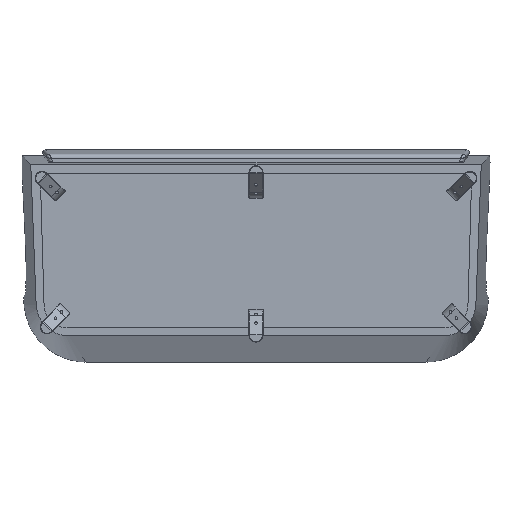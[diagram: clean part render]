
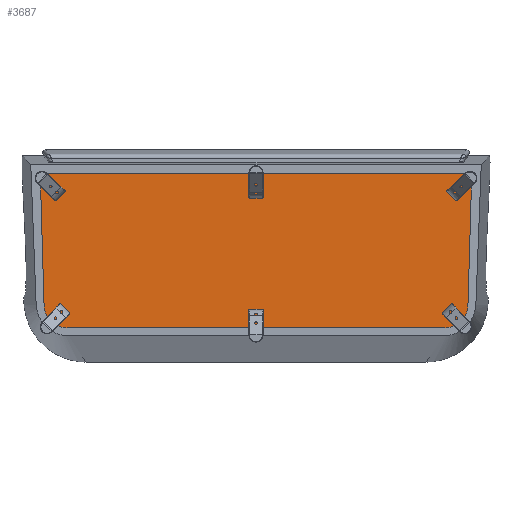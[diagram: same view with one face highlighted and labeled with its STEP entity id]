
A CAD part, front view. The second image highlights one B-rep face of the part: STEP entity #3687.
In plain terms, the highlighted planar face has unit normal (0, -1, 0).
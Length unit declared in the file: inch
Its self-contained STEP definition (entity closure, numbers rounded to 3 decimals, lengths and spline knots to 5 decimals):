
#162=PLANE('',#4059);
#335=LINE('',#7503,#515);
#339=LINE('',#7511,#519);
#343=LINE('',#7523,#523);
#347=LINE('',#7534,#527);
#515=VECTOR('',#4759,39.37008);
#519=VECTOR('',#4765,39.37008);
#523=VECTOR('',#4777,39.37008);
#527=VECTOR('',#4789,39.37008);
#836=FACE_OUTER_BOUND('',#1074,.T.);
#1074=EDGE_LOOP('',(#2785,#2786,#2787,#2788,#2789,#2790));
#1319=CIRCLE('',#4051,3.34646);
#1321=CIRCLE('',#4055,3.34646);
#1563=VERTEX_POINT('',#7501);
#1564=VERTEX_POINT('',#7502);
#1567=VERTEX_POINT('',#7510);
#1569=VERTEX_POINT('',#7516);
#1571=VERTEX_POINT('',#7522);
#1573=VERTEX_POINT('',#7528);
#1980=EDGE_CURVE('',#1563,#1564,#335,.T.);
#1984=EDGE_CURVE('',#1564,#1567,#339,.T.);
#1987=EDGE_CURVE('',#1567,#1569,#1319,.T.);
#1990=EDGE_CURVE('',#1569,#1571,#343,.T.);
#1993=EDGE_CURVE('',#1571,#1573,#1321,.T.);
#1996=EDGE_CURVE('',#1573,#1563,#347,.T.);
#2785=ORIENTED_EDGE('',*,*,#1980,.F.);
#2786=ORIENTED_EDGE('',*,*,#1996,.F.);
#2787=ORIENTED_EDGE('',*,*,#1993,.F.);
#2788=ORIENTED_EDGE('',*,*,#1990,.F.);
#2789=ORIENTED_EDGE('',*,*,#1987,.F.);
#2790=ORIENTED_EDGE('',*,*,#1984,.F.);
#3687=ADVANCED_FACE('',(#836),#162,.T.);
#4051=AXIS2_PLACEMENT_3D('',#7517,#4770,#4771);
#4055=AXIS2_PLACEMENT_3D('',#7529,#4782,#4783);
#4059=AXIS2_PLACEMENT_3D('',#7537,#4793,#4794);
#4759=DIRECTION('',(1.,0.,0.));
#4765=DIRECTION('',(-0.029,0.,-1.));
#4770=DIRECTION('center_axis',(0.,1.,0.));
#4771=DIRECTION('ref_axis',(0.,0.,-1.));
#4777=DIRECTION('',(-1.,0.,0.));
#4782=DIRECTION('center_axis',(0.,1.,0.));
#4783=DIRECTION('ref_axis',(0.,0.,-1.));
#4789=DIRECTION('',(-0.029,0.,1.));
#4793=DIRECTION('center_axis',(0.,-1.,0.));
#4794=DIRECTION('ref_axis',(0.,0.,-1.));
#7501=CARTESIAN_POINT('',(-31.47859,4.80315,-0.3937));
#7502=CARTESIAN_POINT('',(31.47859,4.80315,-0.3937));
#7503=CARTESIAN_POINT('',(31.47859,4.80315,-0.3937));
#7510=CARTESIAN_POINT('',(30.91882,4.80315,-19.58575));
#7511=CARTESIAN_POINT('',(30.91882,4.80315,-19.58575));
#7516=CARTESIAN_POINT('',(27.57379,4.80315,-22.83465));
#7517=CARTESIAN_POINT('Origin',(27.57379,4.80315,-19.48819));
#7522=CARTESIAN_POINT('',(-27.57379,4.80315,-22.83465));
#7523=CARTESIAN_POINT('',(-27.57379,4.80315,-22.83465));
#7528=CARTESIAN_POINT('',(-30.91882,4.80315,-19.58575));
#7529=CARTESIAN_POINT('Origin',(-27.57379,4.80315,-19.48819));
#7534=CARTESIAN_POINT('',(-31.47859,4.80315,-0.3937));
#7537=CARTESIAN_POINT('Origin',(-27.57379,4.80315,-19.48819));
